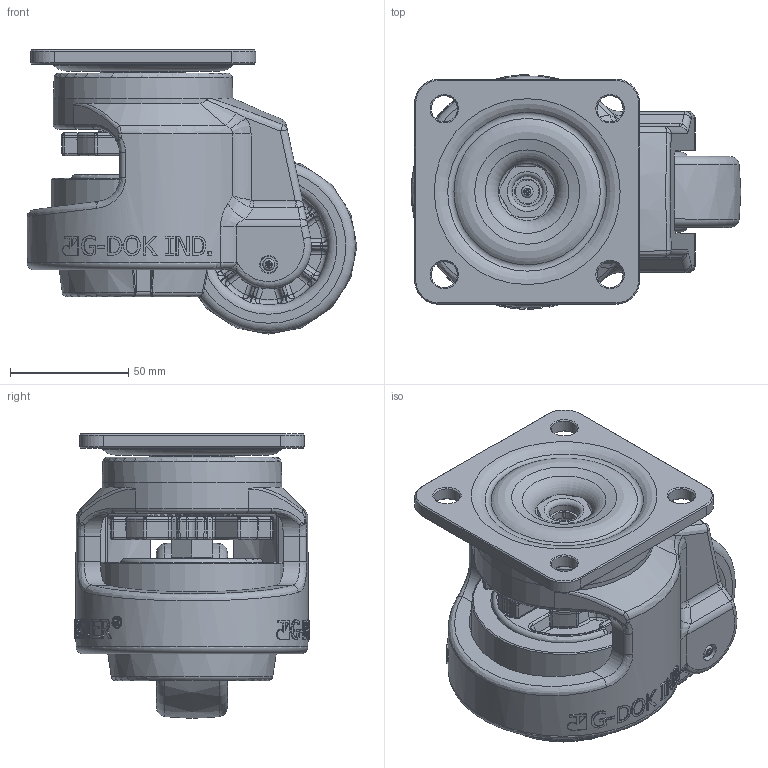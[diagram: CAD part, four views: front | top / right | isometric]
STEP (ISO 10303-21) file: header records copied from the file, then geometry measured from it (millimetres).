
FILE_DESCRIPTION(/* description */ (''),/* implementation_level */ '2;1');
FILE_NAME(/* name */ 'E:\홈피용도면\\X2\C2E0ADDCD648D398C774C9C0C6A9B3C4BA74\X0\\GD-SERIES\GDN-100-F\GDN-100-F.stp',/* time_stamp */ '2016-03-14T09:26:49+09:00',/* author */ ('장용하'),/* organization */ (''),/* preprocessor_version */ 'ST-DEVELOPER v15.6',/* originating_system */ 'Autodesk Inventor 2015',/* authorisation */ '');
FILE_SCHEMA (('AUTOMOTIVE_DESIGN { 1 0 10303 214 3 1 1 }'));
Products named in the file (1): GDN-100-F
Bounding box: 139.17 x 99 x 120.04 mm (x, y, z)
Volume: 601252.7 mm3; surface area: 148921.5 mm2
Topology: 7 solids, 10 shells, 2590 faces, 6266 edges, 3642 vertices
Faces by surface type: bspline 859, plane 615, cylinder 480, cone 251, torus 205, sphere 180
Full cylindrical faces by diameter (mm): 1 x2, 3 x3, 5 x3, 9.3 x1, 10 x1, 10.6 x1, 10.7 x1, 11 x4, 12 x3, 12.2 x1, 12.8 x1, 16 x1, 18.676 x1, 20 x1, 24 x1, 25 x1, 27 x1, 41.6 x1, 42.6 x1, 43.2 x1
Entity records: 123288 total; most frequent: CARTESIAN_POINT 67977, ORIENTED_EDGE 11972, DIRECTION 10802, EDGE_CURVE 5984, AXIS2_PLACEMENT_3D 4513, VERTEX_POINT 3601, EDGE_LOOP 2805, FACE_OUTER_BOUND 2590
